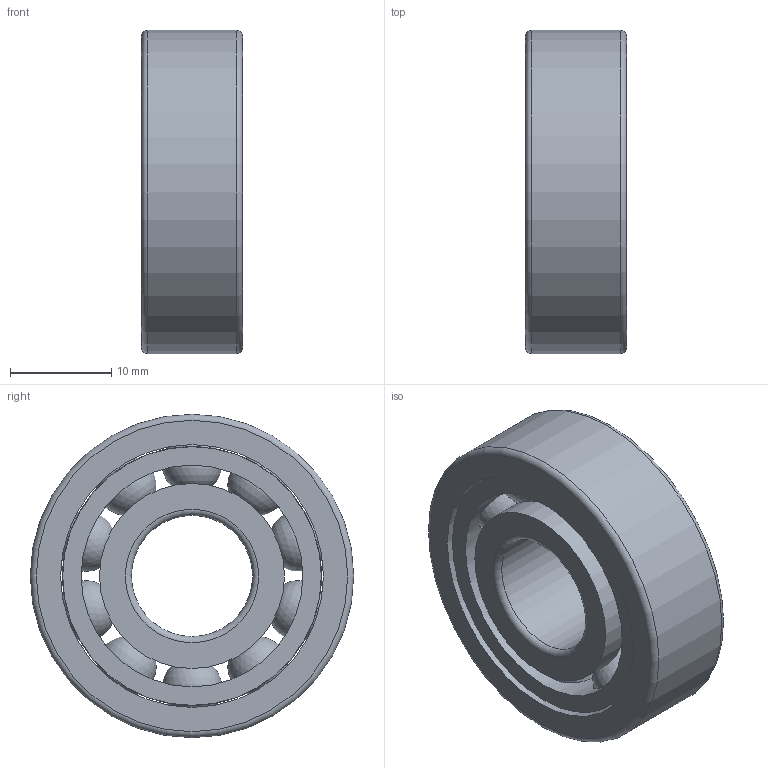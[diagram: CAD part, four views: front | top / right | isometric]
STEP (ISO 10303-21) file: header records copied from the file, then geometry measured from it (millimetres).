
FILE_DESCRIPTION(/* description */ (''),/* implementation_level */ '2;1');
FILE_NAME(/* name */ 'S_6201_TA.step',/* time_stamp */ '2013-03-06T14:49:00+01:00',/* author */ ('Marian'),/* organization */ ('GMN'),/* preprocessor_version */ 'ST-DEVELOPER v11',/* originating_system */ 'SIEMENS UGS NX 6.0',/* authorisation */ '');
FILE_SCHEMA (('CONFIG_CONTROL_DESIGN'));
Length unit declared in the file: millimetre
Products named in the file (1): S_6201_TA
Bounding box: 10 x 32 x 32 mm (x, y, z)
Volume: 5257 mm3; surface area: 6041 mm2
Topology: 13 solids, 13 shells, 40 faces, 98 edges, 62 vertices
Faces by surface type: cylinder 17, sphere 10, torus 6, plane 6, cone 1
Full cylindrical faces by diameter (mm): 6.153 x10, 12 x1, 18.3 x2, 21.933 x1, 25.6 x1, 26 x1, 32 x1
Entity records: 2038 total; most frequent: CARTESIAN_POINT 1271, DIRECTION 122, FACE_BOUND 90, EDGE_LOOP 80, ORIENTED_EDGE 80, AXIS2_PLACEMENT_3D 61, VERTEX_POINT 50, EDGE_CURVE 40
